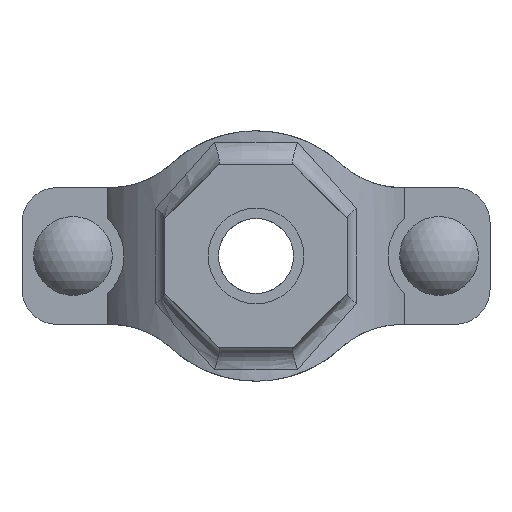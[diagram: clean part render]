
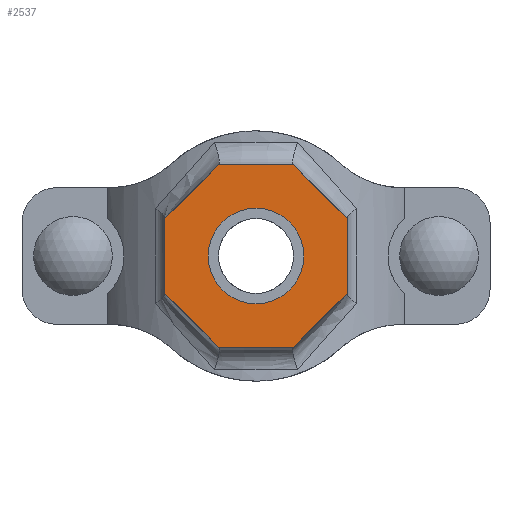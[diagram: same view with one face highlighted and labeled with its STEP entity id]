
A CAD part, front view. The second image highlights one B-rep face of the part: STEP entity #2537.
In plain terms, the highlighted planar face has unit normal (0, -1, 0) as drawn and (0, 1, 0) by its records, which use the part's own axes.
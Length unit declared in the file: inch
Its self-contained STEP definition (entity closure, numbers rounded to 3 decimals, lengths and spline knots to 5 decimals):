
#186=FACE_BOUND('',#457,.T.);
#305=FACE_OUTER_BOUND('',#456,.T.);
#456=EDGE_LOOP('',(#2128,#2129,#2130,#2131,#2132,#2133,#2134,#2135));
#457=EDGE_LOOP('',(#2136));
#594=LINE('',#4585,#780);
#597=LINE('',#4590,#783);
#599=LINE('',#4594,#785);
#601=LINE('',#4598,#787);
#637=LINE('',#4975,#823);
#639=LINE('',#4979,#825);
#641=LINE('',#4983,#827);
#643=LINE('',#4986,#829);
#780=VECTOR('',#3278,0.3937);
#783=VECTOR('',#3283,0.3937);
#785=VECTOR('',#3287,0.3937);
#787=VECTOR('',#3291,0.3937);
#823=VECTOR('',#3419,0.3937);
#825=VECTOR('',#3423,0.3937);
#827=VECTOR('',#3427,0.3937);
#829=VECTOR('',#3431,0.3937);
#919=CIRCLE('',#2802,0.525);
#1097=VERTEX_POINT('',#4582);
#1098=VERTEX_POINT('',#4584);
#1099=VERTEX_POINT('',#4588);
#1100=VERTEX_POINT('',#4592);
#1101=VERTEX_POINT('',#4596);
#1136=VERTEX_POINT('',#4828);
#1158=VERTEX_POINT('',#4974);
#1159=VERTEX_POINT('',#4978);
#1160=VERTEX_POINT('',#4982);
#1408=EDGE_CURVE('',#1098,#1097,#594,.T.);
#1411=EDGE_CURVE('',#1097,#1099,#597,.T.);
#1413=EDGE_CURVE('',#1099,#1100,#599,.T.);
#1415=EDGE_CURVE('',#1100,#1101,#601,.T.);
#1461=EDGE_CURVE('',#1136,#1136,#919,.T.);
#1491=EDGE_CURVE('',#1158,#1098,#637,.T.);
#1493=EDGE_CURVE('',#1159,#1158,#639,.T.);
#1495=EDGE_CURVE('',#1160,#1159,#641,.T.);
#1497=EDGE_CURVE('',#1101,#1160,#643,.T.);
#2128=ORIENTED_EDGE('',*,*,#1497,.T.);
#2129=ORIENTED_EDGE('',*,*,#1495,.T.);
#2130=ORIENTED_EDGE('',*,*,#1493,.T.);
#2131=ORIENTED_EDGE('',*,*,#1491,.T.);
#2132=ORIENTED_EDGE('',*,*,#1408,.T.);
#2133=ORIENTED_EDGE('',*,*,#1411,.T.);
#2134=ORIENTED_EDGE('',*,*,#1413,.T.);
#2135=ORIENTED_EDGE('',*,*,#1415,.T.);
#2136=ORIENTED_EDGE('',*,*,#1461,.T.);
#2278=PLANE('',#2823);
#2537=ADVANCED_FACE('',(#305,#186),#2278,.T.);
#2802=AXIS2_PLACEMENT_3D('',#4829,#3369,#3370);
#2823=AXIS2_PLACEMENT_3D('',#4987,#3432,#3433);
#3278=DIRECTION('',(0.,0.,1.));
#3283=DIRECTION('',(0.707,0.,0.707));
#3287=DIRECTION('',(1.,0.,0.));
#3291=DIRECTION('',(0.707,0.,-0.707));
#3369=DIRECTION('center_axis',(0.,-1.,0.));
#3370=DIRECTION('ref_axis',(-1.,0.,0.));
#3419=DIRECTION('',(-0.707,0.,0.707));
#3423=DIRECTION('',(-1.,0.,0.));
#3427=DIRECTION('',(-0.707,0.,-0.707));
#3431=DIRECTION('',(0.,0.,-1.));
#3432=DIRECTION('center_axis',(0.,1.,0.));
#3433=DIRECTION('ref_axis',(0.,0.,1.));
#4582=CARTESIAN_POINT('',(-1.,2.74,0.41421));
#4584=CARTESIAN_POINT('',(-1.,2.74,-0.41421));
#4585=CARTESIAN_POINT('',(-1.,2.74,0.41421));
#4588=CARTESIAN_POINT('',(-0.41421,2.74,1.));
#4590=CARTESIAN_POINT('',(-0.41421,2.74,1.));
#4592=CARTESIAN_POINT('',(0.41421,2.74,1.));
#4594=CARTESIAN_POINT('',(0.41421,2.74,1.));
#4596=CARTESIAN_POINT('',(1.,2.74,0.41421));
#4598=CARTESIAN_POINT('',(1.,2.74,0.41421));
#4828=CARTESIAN_POINT('',(0.525,2.74,0.));
#4829=CARTESIAN_POINT('Origin',(0.,2.74,0.));
#4974=CARTESIAN_POINT('',(-0.41421,2.74,-1.));
#4975=CARTESIAN_POINT('',(-1.,2.74,-0.41421));
#4978=CARTESIAN_POINT('',(0.41421,2.74,-1.));
#4979=CARTESIAN_POINT('',(-0.41421,2.74,-1.));
#4982=CARTESIAN_POINT('',(1.,2.74,-0.41421));
#4983=CARTESIAN_POINT('',(0.41421,2.74,-1.));
#4986=CARTESIAN_POINT('',(1.,2.74,-0.41421));
#4987=CARTESIAN_POINT('Origin',(0.,2.74,0.));
